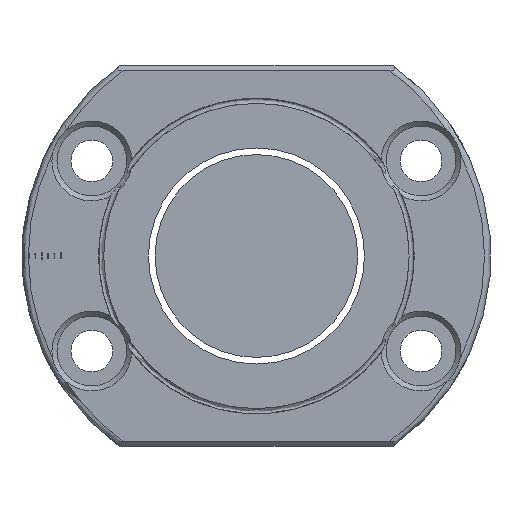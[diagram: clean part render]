
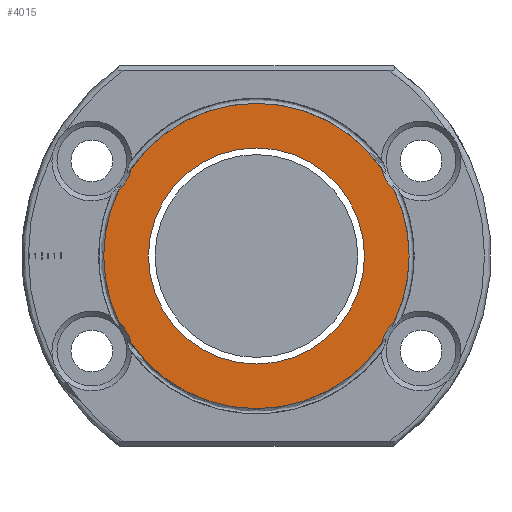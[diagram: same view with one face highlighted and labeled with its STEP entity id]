
A CAD part, left-side view. The second image highlights one B-rep face of the part: STEP entity #4015.
In plain terms, the highlighted planar face has unit normal (-1, 0, 0).
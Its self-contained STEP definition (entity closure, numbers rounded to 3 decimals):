
#71 = ORIENTED_EDGE ( 'NONE', *, *, #2628, .T. ) ;
#126 = CARTESIAN_POINT ( 'NONE',  ( -53., 0., 0. ) ) ;
#142 = CARTESIAN_POINT ( 'NONE',  ( -53., 0., 0. ) ) ;
#162 = CIRCLE ( 'NONE', #2755, 24.1 ) ;
#172 = AXIS2_PLACEMENT_3D ( 'NONE', #3476, #3435, #864 ) ;
#190 = DIRECTION ( 'NONE',  ( -1., 0., 0. ) ) ;
#290 = CIRCLE ( 'NONE', #1384, 24.1 ) ;
#486 = DIRECTION ( 'NONE',  ( 1., 0., 0. ) ) ;
#512 = AXIS2_PLACEMENT_3D ( 'NONE', #142, #2772, #3415 ) ;
#523 = ORIENTED_EDGE ( 'NONE', *, *, #2232, .T. ) ;
#541 = CIRCLE ( 'NONE', #2922, 6.3 ) ;
#801 = PLANE ( 'NONE',  #172 ) ;
#829 = CARTESIAN_POINT ( 'NONE',  ( -53., 17.05, 0. ) ) ;
#848 = AXIS2_PLACEMENT_3D ( 'NONE', #126, #190, #1811 ) ;
#864 = DIRECTION ( 'NONE',  ( 0., -1., 0. ) ) ;
#973 = AXIS2_PLACEMENT_3D ( 'NONE', #2027, #1689, #2978 ) ;
#996 = CARTESIAN_POINT ( 'NONE',  ( -53., -21.79, 10.296 ) ) ;
#1003 = EDGE_CURVE ( 'NONE', #1439, #3571, #541, .T. ) ;
#1054 = ORIENTED_EDGE ( 'NONE', *, *, #1553, .T. ) ;
#1100 = VERTEX_POINT ( 'NONE', #2611 ) ;
#1288 = VERTEX_POINT ( 'NONE', #1761 ) ;
#1319 = EDGE_CURVE ( 'NONE', #3740, #3740, #2823, .T. ) ;
#1346 = DIRECTION ( 'NONE',  ( 1., 0., 0. ) ) ;
#1384 = AXIS2_PLACEMENT_3D ( 'NONE', #2477, #2800, #1449 ) ;
#1416 = DIRECTION ( 'NONE',  ( 1., 0., 0. ) ) ;
#1417 = ORIENTED_EDGE ( 'NONE', *, *, #4046, .T. ) ;
#1439 = VERTEX_POINT ( 'NONE', #2146 ) ;
#1449 = DIRECTION ( 'NONE',  ( 0., 0., 1. ) ) ;
#1462 = CIRCLE ( 'NONE', #1588, 6.3 ) ;
#1553 = EDGE_CURVE ( 'NONE', #1890, #1989, #2958, .T. ) ;
#1583 = DIRECTION ( 'NONE',  ( 1., 0., 0. ) ) ;
#1588 = AXIS2_PLACEMENT_3D ( 'NONE', #2453, #486, #2433 ) ;
#1632 = EDGE_LOOP ( 'NONE', ( #2575 ) ) ;
#1635 = EDGE_CURVE ( 'NONE', #3571, #1288, #162, .T. ) ;
#1689 = DIRECTION ( 'NONE',  ( 1., 0., 0. ) ) ;
#1700 = CARTESIAN_POINT ( 'NONE',  ( -53., -19.812, 13.723 ) ) ;
#1716 = EDGE_CURVE ( 'NONE', #1100, #3419, #290, .T. ) ;
#1732 = DIRECTION ( 'NONE',  ( 0., -1., 0. ) ) ;
#1761 = CARTESIAN_POINT ( 'NONE',  ( -53., 21.79, -10.296 ) ) ;
#1784 = ORIENTED_EDGE ( 'NONE', *, *, #1003, .T. ) ;
#1811 = DIRECTION ( 'NONE',  ( 0., 0., 1. ) ) ;
#1890 = VERTEX_POINT ( 'NONE', #996 ) ;
#1983 = CARTESIAN_POINT ( 'NONE',  ( -53., -25.981, 15. ) ) ;
#1989 = VERTEX_POINT ( 'NONE', #1700 ) ;
#1992 = VERTEX_POINT ( 'NONE', #3926 ) ;
#2027 = CARTESIAN_POINT ( 'NONE',  ( -53., 25.981, -15. ) ) ;
#2051 = DIRECTION ( 'NONE',  ( -1., 0., 0. ) ) ;
#2069 = AXIS2_PLACEMENT_3D ( 'NONE', #1983, #1346, #1732 ) ;
#2104 = FACE_BOUND ( 'NONE', #1632, .T. ) ;
#2110 = EDGE_CURVE ( 'NONE', #1992, #1890, #2211, .T. ) ;
#2126 = EDGE_LOOP ( 'NONE', ( #1054, #1417, #1784, #3866, #71, #2408, #523, #2907 ) ) ;
#2146 = CARTESIAN_POINT ( 'NONE',  ( -53., 19.812, 13.723 ) ) ;
#2211 = CIRCLE ( 'NONE', #848, 24.1 ) ;
#2232 = EDGE_CURVE ( 'NONE', #3419, #1992, #1462, .T. ) ;
#2408 = ORIENTED_EDGE ( 'NONE', *, *, #1716, .T. ) ;
#2433 = DIRECTION ( 'NONE',  ( 0., -1., 0. ) ) ;
#2445 = CARTESIAN_POINT ( 'NONE',  ( -53., 0., 0. ) ) ;
#2453 = CARTESIAN_POINT ( 'NONE',  ( -53., -25.981, -15. ) ) ;
#2477 = CARTESIAN_POINT ( 'NONE',  ( -53., 0., 0. ) ) ;
#2575 = ORIENTED_EDGE ( 'NONE', *, *, #1319, .T. ) ;
#2611 = CARTESIAN_POINT ( 'NONE',  ( -53., 19.812, -13.723 ) ) ;
#2628 = EDGE_CURVE ( 'NONE', #1288, #1100, #2887, .T. ) ;
#2698 = CARTESIAN_POINT ( 'NONE',  ( -53., 0., 0. ) ) ;
#2755 = AXIS2_PLACEMENT_3D ( 'NONE', #2698, #2051, #3361 ) ;
#2772 = DIRECTION ( 'NONE',  ( -1., 0., 0. ) ) ;
#2800 = DIRECTION ( 'NONE',  ( -1., 0., 0. ) ) ;
#2823 = CIRCLE ( 'NONE', #3375, 17.05 ) ;
#2834 = CARTESIAN_POINT ( 'NONE',  ( -53., 25.981, 15. ) ) ;
#2887 = CIRCLE ( 'NONE', #973, 6.3 ) ;
#2907 = ORIENTED_EDGE ( 'NONE', *, *, #2110, .T. ) ;
#2922 = AXIS2_PLACEMENT_3D ( 'NONE', #2834, #1583, #3212 ) ;
#2958 = CIRCLE ( 'NONE', #2069, 6.3 ) ;
#2978 = DIRECTION ( 'NONE',  ( 0., -1., 0. ) ) ;
#3212 = DIRECTION ( 'NONE',  ( 0., -1., 0. ) ) ;
#3361 = DIRECTION ( 'NONE',  ( 0., 0., 1. ) ) ;
#3365 = CARTESIAN_POINT ( 'NONE',  ( -53., 21.79, 10.296 ) ) ;
#3375 = AXIS2_PLACEMENT_3D ( 'NONE', #2445, #1416, #3750 ) ;
#3415 = DIRECTION ( 'NONE',  ( 0., 0., 1. ) ) ;
#3419 = VERTEX_POINT ( 'NONE', #3895 ) ;
#3435 = DIRECTION ( 'NONE',  ( -1., 0., 0. ) ) ;
#3476 = CARTESIAN_POINT ( 'NONE',  ( -53., 37., 0. ) ) ;
#3571 = VERTEX_POINT ( 'NONE', #3365 ) ;
#3707 = FACE_OUTER_BOUND ( 'NONE', #2126, .T. ) ;
#3740 = VERTEX_POINT ( 'NONE', #829 ) ;
#3750 = DIRECTION ( 'NONE',  ( 0., 1., 0. ) ) ;
#3866 = ORIENTED_EDGE ( 'NONE', *, *, #1635, .T. ) ;
#3895 = CARTESIAN_POINT ( 'NONE',  ( -53., -19.812, -13.723 ) ) ;
#3926 = CARTESIAN_POINT ( 'NONE',  ( -53., -21.79, -10.296 ) ) ;
#4015 = ADVANCED_FACE ( 'NONE', ( #2104, #3707 ), #801, .T. ) ;
#4046 = EDGE_CURVE ( 'NONE', #1989, #1439, #4192, .T. ) ;
#4192 = CIRCLE ( 'NONE', #512, 24.1 ) ;
